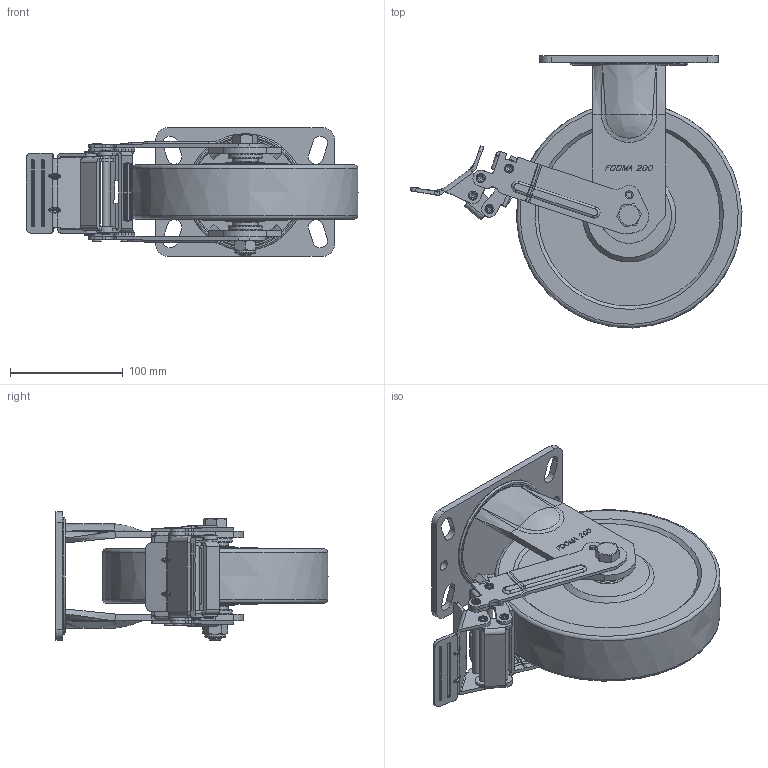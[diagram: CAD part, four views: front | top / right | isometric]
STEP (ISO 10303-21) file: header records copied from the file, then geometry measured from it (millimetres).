
FILE_DESCRIPTION(/* description */ (''),/* implementation_level */ '2;1');
FILE_NAME(/* name */ 'E:\★.DWG\PMH-SERIES\3D\홈페이지용\20180122-STEP\PMH-200-BRF-MCD.stp',/* time_stamp */ '2018-01-22T15:11:32+09:00',/* author */ ('장용하'),/* organization */ (''),/* preprocessor_version */ 'ST-DEVELOPER v16.13',/* originating_system */ 'Autodesk Inventor 2018',/* authorisation */ '');
FILE_SCHEMA (('AUTOMOTIVE_DESIGN { 1 0 10303 214 3 1 1 }'));
Products named in the file (1): PMH-200-BRF-MCD_Shrinkwrap_1
Bounding box: 294.09 x 240.95 x 114 mm (x, y, z)
Volume: 1732940.7 mm3; surface area: 233854.4 mm2
Topology: 3 solids, 3 shells, 1707 faces, 4571 edges, 2938 vertices
Faces by surface type: plane 1160, cylinder 357, bspline 101, torus 62, cone 19, sphere 8
Full cylindrical faces by diameter (mm): 4 x4, 5 x2, 6 x4, 6.2 x17, 7.7 x2, 8 x10, 9 x2, 12 x1, 18.5 x1, 21.667 x2, 21.867 x2, 22.9 x2, 28.133 x2, 28.333 x2, 30 x2, 35 x2, 102.5 x1, 103.5 x1
Entity records: 55964 total; most frequent: CARTESIAN_POINT 11981, ORIENTED_EDGE 8850, DIRECTION 8415, EDGE_CURVE 4425, LINE 3443, VECTOR 3443, VERTEX_POINT 2914, AXIS2_PLACEMENT_3D 2486
